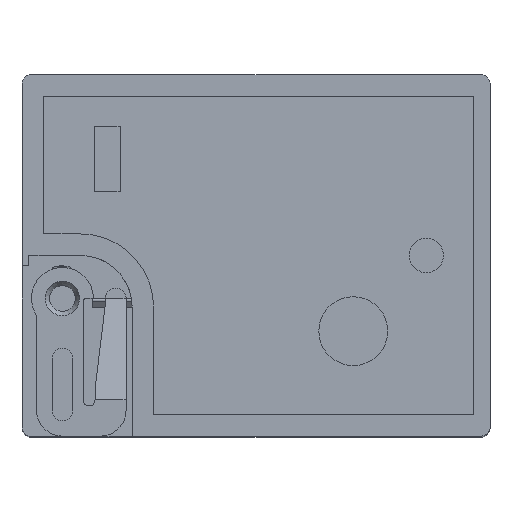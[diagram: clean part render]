
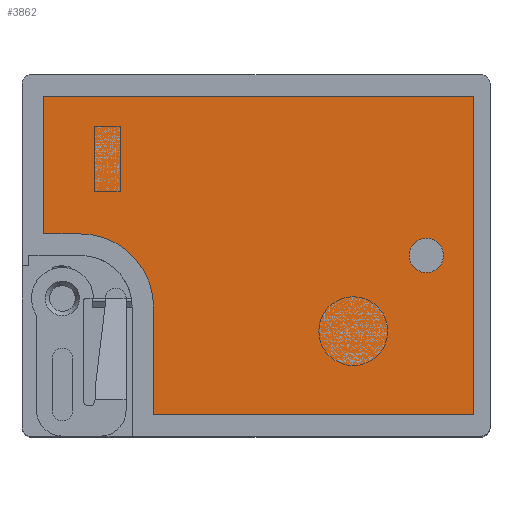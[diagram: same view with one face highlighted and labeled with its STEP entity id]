
A CAD part, top view. The second image highlights one B-rep face of the part: STEP entity #3862.
In plain terms, the highlighted planar face has unit normal (0, 0, 1) as drawn and (0, 0, -1) by its records, which use the part's own axes.
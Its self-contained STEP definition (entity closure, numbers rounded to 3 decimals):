
#1934=FACE_BOUND('',#6702,.T.);
#1935=FACE_BOUND('',#6703,.T.);
#2930=CIRCLE('',#21995,4.25);
#2931=CIRCLE('',#22000,1.);
#3862=ADVANCED_FACE('',(#1934,#1935),#4622,.T.);
#4622=PLANE('',#22001);
#6702=EDGE_LOOP('',(#11319));
#6703=EDGE_LOOP('',(#11320,#11321,#11322,#11323,#11324,#11325,#11326));
#11319=ORIENTED_EDGE('',*,*,#16537,.F.);
#11320=ORIENTED_EDGE('',*,*,#16524,.F.);
#11321=ORIENTED_EDGE('',*,*,#16536,.F.);
#11322=ORIENTED_EDGE('',*,*,#16534,.T.);
#11323=ORIENTED_EDGE('',*,*,#16532,.T.);
#11324=ORIENTED_EDGE('',*,*,#16531,.F.);
#11325=ORIENTED_EDGE('',*,*,#16528,.F.);
#11326=ORIENTED_EDGE('',*,*,#16526,.F.);
#14019=VERTEX_POINT('',#38959);
#14020=VERTEX_POINT('',#38961);
#14021=VERTEX_POINT('',#38965);
#14022=VERTEX_POINT('',#38969);
#14023=VERTEX_POINT('',#38973);
#14024=VERTEX_POINT('',#38977);
#14025=VERTEX_POINT('',#38981);
#14026=VERTEX_POINT('',#38987);
#16524=EDGE_CURVE('',#14019,#14020,#18543,.T.);
#16526=EDGE_CURVE('',#14020,#14021,#18545,.T.);
#16528=EDGE_CURVE('',#14021,#14022,#18547,.T.);
#16531=EDGE_CURVE('',#14022,#14023,#2930,.T.);
#16532=EDGE_CURVE('',#14024,#14023,#18550,.T.);
#16534=EDGE_CURVE('',#14025,#14024,#18552,.T.);
#16536=EDGE_CURVE('',#14025,#14019,#18554,.T.);
#16537=EDGE_CURVE('',#14026,#14026,#2931,.T.);
#18543=LINE('',#38960,#20456);
#18545=LINE('',#38964,#20458);
#18547=LINE('',#38968,#20460);
#18550=LINE('',#38976,#20463);
#18552=LINE('',#38980,#20465);
#18554=LINE('',#38984,#20467);
#20456=VECTOR('',#26519,1.);
#20458=VECTOR('',#26523,1.);
#20460=VECTOR('',#26527,1.);
#20463=VECTOR('',#26536,1.);
#20465=VECTOR('',#26540,1.);
#20467=VECTOR('',#26544,1.);
#21995=AXIS2_PLACEMENT_3D('',#38974,#26532,#26533);
#22000=AXIS2_PLACEMENT_3D('',#38986,#26547,#26548);
#22001=AXIS2_PLACEMENT_3D('',#38988,#26549,#26550);
#26519=DIRECTION('',(1.,0.,0.));
#26523=DIRECTION('',(0.,1.,0.));
#26527=DIRECTION('',(-1.,0.,0.));
#26532=DIRECTION('',(0.,0.,-1.));
#26533=DIRECTION('',(-1.,0.,0.));
#26536=DIRECTION('',(0.,-1.,0.));
#26540=DIRECTION('',(1.,0.,0.));
#26544=DIRECTION('',(0.,-1.,0.));
#26547=DIRECTION('',(0.,0.,-1.));
#26548=DIRECTION('',(-1.,0.,0.));
#26549=DIRECTION('',(0.,0.,-1.));
#26550=DIRECTION('',(-1.,0.,0.));
#38959=CARTESIAN_POINT('',(-9.25,-12.65,-29.6));
#38960=CARTESIAN_POINT('',(-9.25,-12.65,-29.6));
#38961=CARTESIAN_POINT('',(9.25,-12.65,-29.6));
#38964=CARTESIAN_POINT('',(9.25,-12.65,-29.6));
#38965=CARTESIAN_POINT('',(9.25,5.95,-29.6));
#38968=CARTESIAN_POINT('',(9.25,5.95,-29.6));
#38969=CARTESIAN_POINT('',(3.,5.95,-29.6));
#38973=CARTESIAN_POINT('',(-1.25,10.2,-29.6));
#38974=CARTESIAN_POINT('',(3.,10.2,-29.6));
#38976=CARTESIAN_POINT('',(-1.25,12.35,-29.6));
#38977=CARTESIAN_POINT('',(-1.25,12.35,-29.6));
#38980=CARTESIAN_POINT('',(-9.25,12.35,-29.6));
#38981=CARTESIAN_POINT('',(-9.25,12.35,-29.6));
#38984=CARTESIAN_POINT('',(-9.25,12.35,-29.6));
#38986=CARTESIAN_POINT('',(0.,-9.9,-29.6));
#38987=CARTESIAN_POINT('',(-1.,-9.9,-29.6));
#38988=CARTESIAN_POINT('',(1.35,8.95,-29.6));
